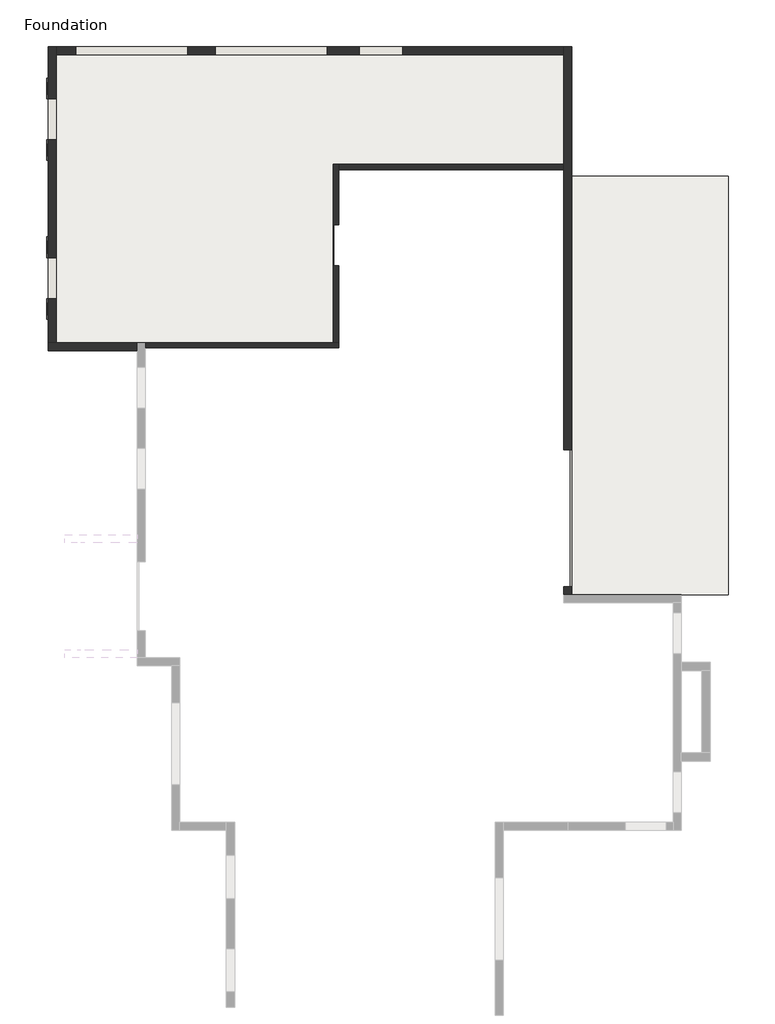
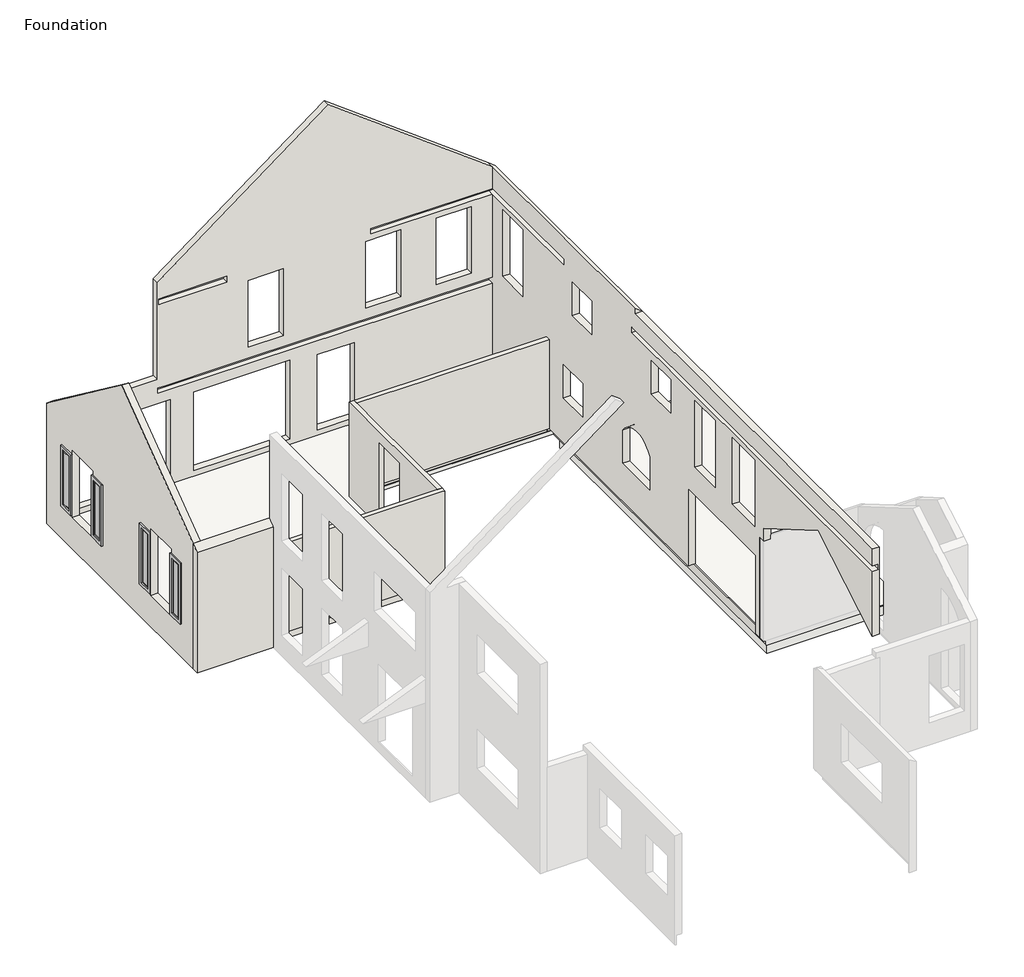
# One storey, part 2 of 2: 7 walls, 4 proxies, 3 slabs.
"""IFC4 building model written with IfcOpenShell, lengths in millimetres."""

from ifc_helpers import new_model, si_unit, frame, origin, place, context, project, spatial, polyline, circle_curve, outline, extrude, faceted_brep, transform, mapped, element, save
from ifc_brep_helpers import plane_surface, revolved_surface, advanced_brep
from components import shutter_4292_shutter_4292_058b0e71

model = new_model("IFC4")

# Units and contexts
model_context = context("Model", 3, world=origin())
ifc_project = project(units=[si_unit("LENGTHUNIT", "METRE", prefix="MILLI")], contexts=[model_context])

# Site, building, storey
site = spatial("IfcSite", under=ifc_project)
building = spatial("IfcBuilding", under=site)
storey = spatial("IfcBuildingStorey", under=building, Name="Foundation", Elevation=-254.0)

# Proxies
placement = place(None, origin())
shutter_4292_shutter_4292_shape = shutter_4292_shutter_4292_058b0e71(model_context)
element("IfcBuildingElementProxy", 1, Name="Shutter_4292 : Shutter_4292", ObjectType="Shutter_4292 : Shutter_4292", at=placement, inside=storey, context=model_context, shape_type="MappedRepresentation", body=[
    mapped(shutter_4292_shutter_4292_shape, transform((-12623.2105992, 4657.5047697, -254.0), x_axis=(0.0, 1.0, 0.0), y_axis=(-1.0, 0.0, 0.0), z_axis=(0.0, 0.0, 1.0))),
])
element("IfcBuildingElementProxy", 2, Name="Shutter_4292 : Shutter_4292", ObjectType="Shutter_4292 : Shutter_4292", at=placement, inside=storey, context=model_context, shape_type="MappedRepresentation", body=[
    mapped(shutter_4292_shutter_4292_shape, transform((-12623.2105992, 6029.1047697, -254.0), x_axis=(0.0, 1.0, 0.0), y_axis=(-1.0, 0.0, 0.0), z_axis=(0.0, 0.0, 1.0))),
])
element("IfcBuildingElementProxy", 3, Name="Shutter_4292 : Shutter_4292", ObjectType="Shutter_4292 : Shutter_4292", at=placement, inside=storey, context=model_context, shape_type="MappedRepresentation", body=[
    mapped(shutter_4292_shutter_4292_shape, transform((-12623.2105992, 8191.2797697, -254.0), x_axis=(0.0, 1.0, 0.0), y_axis=(-1.0, 0.0, 0.0), z_axis=(0.0, 0.0, 1.0))),
])
element("IfcBuildingElementProxy", 4, Name="Shutter_4292 : Shutter_4292", ObjectType="Shutter_4292 : Shutter_4292", at=placement, inside=storey, context=model_context, shape_type="MappedRepresentation", body=[
    mapped(shutter_4292_shutter_4292_shape, transform((-12623.2105992, 9562.8797697, -254.0), x_axis=(0.0, 1.0, 0.0), y_axis=(-1.0, 0.0, 0.0), z_axis=(0.0, 0.0, 1.0))),
])

# Slabs
element("IfcSlab", 5, ObjectType="Concrete Slab - 10\"", at=placement, inside=storey, context=model_context, shape_type="SweptSolid", body=[
    extrude(outline(polyline([(-1074.1480992, -1929.0327303), (-1074.1480992, 7373.7172697), (2402.4769008, 7373.7172697), (2402.4769008, -1929.0327303), (-1074.1480992, -1929.0327303)])), frame((0.0, 0.0, -508.0), z_axis=(0.0, 0.0, 1.0), x_axis=(1.0, 0.0, 0.0)), (0.0, 0.0, 1.0), 254.0),
])
element("IfcSlab", 6, ObjectType="Concrete Slab - 4\"", at=placement, inside=storey, context=model_context, shape_type="Brep", body=[
    faceted_brep([(-1102.7230992, 10234.3922697, -254.0), (-1102.7230992, 7603.9047697, -254.0), (-6376.3980992, 7603.9047697, -254.0), (-6376.3980992, 3681.1922697, -254.0), (-12685.1230992, 3681.1922697, -254.0), (-12685.1230992, 10234.3922697, -254.0), (-12532.7230992, 10234.3922697, -254.0), (-10494.3730992, 10234.3922697, -254.0), (-9760.9480992, 10234.3922697, -254.0), (-1255.1230992, 10234.3922697, -254.0), (-1102.7230992, 10234.3922697, -152.4), (-1255.1230992, 10234.3922697, -152.4), (-10494.3730992, 10234.3922697, -152.4), (-12532.7230992, 10234.3922697, -152.4), (-12685.1230992, 10234.3922697, -152.4), (-12685.1230992, 3681.1922697, -152.4), (-12532.7230992, 3681.1922697, -152.4), (-6376.3980992, 3681.1922697, -152.4), (-6376.3980992, 7603.9047697, -152.4), (-1102.7230992, 7603.9047697, -152.4), (-1102.7230992, 7627.7172697, -152.4)], [[[0, 1, 2, 3, 4, 5, 6, 7, 8, 9]], [[10, 11, 12, 13, 14, 15, 16, 17, 18, 19, 20]], [[1, 0, 10, 20, 19]], [[2, 1, 19, 18]], [[3, 2, 18, 17]], [[4, 3, 17, 16, 15]], [[5, 4, 15, 14]], [[7, 6, 5, 14, 13, 12]], [[0, 9, 8, 7, 12, 11, 10]]]),
])
element("IfcSlab", 7, ObjectType="Patio Floor", at=placement, inside=storey, context=model_context, shape_type="SweptSolid", body=[
    extrude(outline(polyline([(2402.4769008, 7373.7172697), (2402.4769008, -1929.0327303), (-1074.1480992, -1929.0327303), (-1074.1480992, 7373.7172697), (2402.4769008, 7373.7172697)])), frame((0.0, 0.0, -254.0), z_axis=(0.0, 0.0, 1.0), x_axis=(1.0, 0.0, 0.0)), (0.0, 0.0, 1.0), 25.4),
])

# Walls
element("IfcWall", 8, ObjectType="Interior - 4 3/4\" Partition (1-hr)", at=placement, inside=storey, context=model_context, shape_type="Brep", body=[
    faceted_brep([(-6255.7480992, 3560.5422697, 2438.4), (-6316.0730992, 3560.5422697, 2438.4), (-10551.5230992, 3560.5422697, 2438.4), (-10551.5230992, 3560.5422697, 0.0), (-6316.0730992, 3560.5422697, 0.0), (-6255.7480992, 3560.5422697, 0.0), (-10551.5230992, 3681.1922697, 2438.4), (-6376.3980992, 3681.1922697, 2438.4), (-6255.7480992, 3681.1922697, 2438.4), (-6255.7480992, 3681.1922697, 0.0), (-6360.5230992, 3681.1922697, 0.0), (-6360.5230992, 3681.1922697, -254.0), (-6376.3980992, 3681.1922697, -254.0), (-10551.5230992, 3681.1922697, -254.0), (-6360.5230992, 3665.3172697, -254.0), (-10551.5230992, 3665.3172697, -254.0), (-10551.5230992, 3616.1047697, 2438.4), (-10551.5230992, 3665.3172697, 0.0), (-6360.5230992, 3665.3172697, 0.0)], [[[0, 1, 2, 3, 4, 5]], [[6, 7, 8, 9, 10, 11, 12, 13]], [[13, 12, 11, 14, 15]], [[2, 1, 0, 8, 7, 6, 16]], [[2, 16, 6, 13, 15, 17, 3]], [[8, 0, 5, 9]], [[17, 18, 10, 9, 5, 4, 3]], [[14, 18, 17, 15]], [[18, 14, 11, 10]]]),
])
element("IfcWall", 9, ObjectType="Interior - 4 3/4\" Partition (1-hr)", at=placement, inside=storey, context=model_context, shape_type="Brep", body=[
    faceted_brep([(-6255.7480992, 7643.5922697, 2438.4), (-6255.7480992, 7522.9422697, 2438.4), (-6255.7480992, 6608.5422697, 2438.4), (-6255.7480992, 6494.2422697, 2438.4), (-6255.7480992, 5275.0422697, 2438.4), (-6255.7480992, 5160.7422697, 2438.4), (-6255.7480992, 3681.1922697, 2438.4), (-6255.7480992, 3681.1922697, 0.0), (-6255.7480992, 5160.7422697, 0.0), (-6255.7480992, 5275.0422697, 0.0), (-6255.7480992, 5387.7547697, 0.0), (-6255.7480992, 5387.7547697, 2133.6), (-6255.7480992, 6302.1547697, 2133.6), (-6255.7480992, 6302.1547697, 0.0), (-6255.7480992, 6494.2422697, 0.0), (-6255.7480992, 6608.5422697, 0.0), (-6255.7480992, 7522.9422697, 0.0), (-6255.7480992, 7627.7172697, 0.0), (-6255.7480992, 7627.7172697, -254.0), (-6255.7480992, 7643.5922697, -254.0), (-6376.3980992, 7643.5922697, -254.0), (-6376.3980992, 3681.1922697, -254.0), (-6376.3980992, 3681.1922697, 2438.4), (-6376.3980992, 7643.5922697, 2438.4), (-6376.3980992, 5387.7547697, 0.0), (-6376.3980992, 6302.1547697, 0.0), (-6376.3980992, 6302.1547697, 2133.6), (-6376.3980992, 5387.7547697, 2133.6), (-6360.5230992, 7627.7172697, -254.0), (-6360.5230992, 3681.1922697, -254.0), (-6360.5230992, 6302.1547697, 0.0), (-6360.5230992, 7627.7172697, 0.0), (-6360.5230992, 3681.1922697, 0.0), (-6360.5230992, 5387.7547697, 0.0)], [[[0, 1, 2, 3, 4, 5, 6, 7, 8, 9, 10, 11, 12, 13, 14, 15, 16, 17, 18, 19]], [[20, 21, 22, 23], [24, 25, 26, 27]], [[21, 20, 19, 18, 28, 29]], [[6, 5, 4, 3, 2, 1, 0, 23, 22]], [[0, 19, 20, 23]], [[30, 31, 17, 16, 15, 14, 13]], [[32, 33, 10, 9, 8, 7]], [[28, 31, 30, 33, 32, 29]], [[31, 28, 18, 17]], [[25, 24, 33, 30]], [[26, 25, 30, 13, 12]], [[27, 26, 12, 11]], [[24, 27, 11, 10, 33]], [[6, 22, 21, 29, 32, 7]]]),
])
element("IfcWall", 10, ObjectType="Interior - 4 3/4\" Partition (1-hr)", at=placement, inside=storey, context=model_context, shape_type="Brep", body=[
    faceted_brep([(-1255.1230992, 7522.9422697, 2438.4), (-4312.6480992, 7522.9422697, 2438.4), (-4426.9480992, 7522.9422697, 2438.4), (-6255.7480992, 7522.9422697, 2438.4), (-6255.7480992, 7522.9422697, 0.0), (-4426.9480992, 7522.9422697, 0.0), (-4312.6480992, 7522.9422697, 0.0), (-1255.1230992, 7522.9422697, 0.0), (-1255.1230992, 7643.5922697, -254.0), (-6255.7480992, 7643.5922697, -254.0), (-6255.7480992, 7643.5922697, 2438.4), (-1255.1230992, 7643.5922697, 2438.4), (-1255.1230992, 7627.7172697, -254.0), (-6255.7480992, 7627.7172697, -254.0), (-6255.7480992, 7627.7172697, 0.0), (-1255.1230992, 7627.7172697, 0.0), (-1255.1230992, 7627.7172697, -152.4)], [[[0, 1, 2, 3, 4, 5, 6, 7]], [[8, 9, 10, 11]], [[9, 8, 12, 13]], [[3, 2, 1, 0, 11, 10]], [[3, 10, 9, 13, 14, 4]], [[8, 11, 0, 7, 15, 16, 12]], [[14, 15, 7, 6, 5, 4]], [[15, 14, 13, 12, 16]]]),
])
element("IfcWall", 11, ObjectType="Siding For My House", at=placement, inside=storey, context=model_context, shape_type="AdvancedBrep", body=[
    advanced_brep(
    [(-1255.1230992, 10262.9672697, 5622.13125), (-1255.1230992, 10262.9672697, -254.0), (-1255.1230992, 10234.3922697, -254.0), (-1255.1230992, 10234.3922697, -152.4), (-1255.1230992, 10081.9922697, -152.4), (-1255.1230992, 7627.7172697, -152.4), (-1255.1230992, 7627.7172697, 0.0), (-1255.1230992, 7522.9422697, 0.0), (-1255.1230992, 5389.3422697, 0.0), (-1255.1230992, 5275.0422697, 0.0), (-1255.1230992, 1293.5922697, 0.0), (-1255.1230992, 1293.5922697, 2133.6), (-1255.1230992, -1754.4077303, 2133.6), (-1255.1230992, -1754.4077303, 0.0), (-1255.1230992, -1929.0327303, 0.0), (-1255.1230992, -1929.0327303, 2743.2), (-1255.1230992, -2110.0077303, 2743.2), (-1255.1230992, -2110.0077303, 3091.3655532), (-1255.1230992, -4548.4077303, 4513.7655532), (-1255.1230992, -6986.6482031, 3091.4586107), (-1255.1230992, -6986.8077303, 3091.3655532), (-1255.1230992, -6986.8077303, 4876.8), (-1255.1230992, -2833.9077303, 4876.8), (-1255.1230992, -2719.6077303, 4876.8), (-1255.1230992, -2110.0077303, 4876.8), (-1255.1230992, -1995.7077303, 4876.8), (-1255.1230992, 1388.8422697, 4876.8), (-1255.1230992, 1503.1422697, 4876.8), (-1255.1230992, 3817.7172697, 4876.8), (-1255.1230992, 3817.7172697, 5029.2), (-1255.1230992, -6986.8077303, 5029.2), (-1255.1230992, -6986.8077303, 5486.4), (-1255.1230992, 3665.3172697, 5486.4), (-1255.1230992, 3665.3172697, 5622.13125), (-1255.1230992, 3817.7172697, 5622.13125), (-1255.1230992, 3932.0172697, 5622.13125), (-1255.1230992, 6767.2922697, 5622.13125), (-1255.1230992, 6881.5922697, 5622.13125), (-1255.1230992, 10081.9922697, 5622.13125), (-1255.1230992, 3008.0922697, 1041.4), (-1255.1230992, 4227.2922697, 1041.4), (-1255.1230992, 4227.2922697, 1955.8), (-1255.1230992, 3008.0922697, 1955.8), (-1255.1230992, 988.7922697, 2895.6), (-1255.1230992, 988.7922697, 4724.4), (-1255.1230992, 74.3922697, 4724.4), (-1255.1230992, 74.3922697, 2895.6), (-1255.1230992, -681.2577303, 2895.6), (-1255.1230992, -681.2577303, 4724.4), (-1255.1230992, -1697.2577303, 4724.4), (-1255.1230992, -1697.2577303, 2895.6), (-1255.1230992, 6025.9297697, 2133.6), (-1255.1230992, 6025.9297697, 1219.2), (-1255.1230992, 6889.5297697, 1219.2), (-1255.1230992, 6889.5297697, 2133.6), (-1255.1230992, 5630.6422697, 4635.5), (-1255.1230992, 5630.6422697, 3721.1), (-1255.1230992, 6494.2422697, 3721.1), (-1255.1230992, 6494.2422697, 4635.5), (-1255.1230992, 2080.9922697, 4635.5), (-1255.1230992, 2080.9922697, 3721.1), (-1255.1230992, 2944.5922697, 3721.1), (-1255.1230992, 2944.5922697, 4635.5), (-1255.1230992, 8710.3922697, 4724.4), (-1255.1230992, 8710.3922697, 2895.6), (-1255.1230992, 9624.7922697, 2895.6), (-1255.1230992, 9624.7922697, 4724.4), (-1255.1230992, 6881.5922697, 4876.8), (-1255.1230992, 10081.9922697, 4876.8), (-1255.1230992, 10234.3922697, 4876.8), (-1255.1230992, 10234.3922697, 5029.2), (-1255.1230992, 10081.9922697, 5029.2), (-1255.1230992, 6881.5922697, 5029.2), (-1074.1480992, -1929.0327303, -254.0), (-1074.1480992, 10262.9672697, -254.0), (-1074.1480992, 10262.9672697, 5486.4), (-1074.1480992, 3665.3172697, 5486.4), (-1074.1480992, -6986.8077303, 5486.4), (-1074.1480992, -6986.8077303, 3091.3655532), (-1074.1480992, -4548.4077303, 4513.7655532), (-1074.1480992, -2110.0077303, 3091.3655532), (-1074.1480992, -2110.0077303, 2848.76875), (-1074.1480992, -2110.0077303, 2743.2), (-1074.1480992, -1929.0327303, 2743.2), (-1074.1480992, 4227.2922697, 1041.4), (-1074.1480992, 3008.0922697, 1041.4), (-1074.1480992, 3008.0922697, 1955.8), (-1074.1480992, 4227.2922697, 1955.8), (-1074.1480992, -1754.4077303, 0.0), (-1074.1480992, -1754.4077303, 2133.6), (-1074.1480992, 1293.5922697, 2133.6), (-1074.1480992, 1293.5922697, 0.0), (-1074.1480992, 988.7922697, 4724.4), (-1074.1480992, 988.7922697, 2895.6), (-1074.1480992, 74.3922697, 2895.6), (-1074.1480992, 74.3922697, 4724.4), (-1074.1480992, -681.2577303, 4724.4), (-1074.1480992, -681.2577303, 2895.6), (-1074.1480992, -1697.2577303, 2895.6), (-1074.1480992, -1697.2577303, 4724.4), (-1074.1480992, 6025.9297697, 1219.2), (-1074.1480992, 6025.9297697, 2133.6), (-1074.1480992, 6889.5297697, 2133.6), (-1074.1480992, 6889.5297697, 1219.2), (-1074.1480992, 5630.6422697, 3721.1), (-1074.1480992, 5630.6422697, 4635.5), (-1074.1480992, 6494.2422697, 4635.5), (-1074.1480992, 6494.2422697, 3721.1), (-1074.1480992, 2080.9922697, 3721.1), (-1074.1480992, 2080.9922697, 4635.5), (-1074.1480992, 2944.5922697, 4635.5), (-1074.1480992, 2944.5922697, 3721.1), (-1074.1480992, 8710.3922697, 2895.6), (-1074.1480992, 8710.3922697, 4724.4), (-1074.1480992, 9624.7922697, 4724.4), (-1074.1480992, 9624.7922697, 2895.6), (-1102.7230992, -1754.4077303, 0.0), (-1102.7230992, -1929.0327303, 0.0), (-1102.7230992, 7627.7172697, 0.0), (-1102.7230992, 1293.5922697, 0.0), (-1102.7230992, 7627.7172697, -152.4), (-1102.7230992, 10234.3922697, -152.4), (-1102.7230992, 10234.3922697, -254.0), (-1102.7230992, 7627.7172697, -254.0), (-1102.7230992, 7603.9047697, -254.0), (-1102.7230992, -1929.0327303, -254.0), (-1102.7230992, -6986.8077303, 5029.2), (-1102.7230992, -6986.8077303, 4876.8), (-1102.7230992, 3817.7172697, 4876.8), (-1102.7230992, 6881.5922697, 4876.8), (-1102.7230992, 10234.3922697, 4876.8), (-1102.7230992, 10234.3922697, 5029.2), (-1102.7230992, 6881.5922697, 5029.2), (-1102.7230992, 3817.7172697, 5029.2)],
    [
        (0, 1),
        (1, 2),
        (2, 3),
        (3, 4),
        (4, 5),
        (5, 6),
        (6, 7),
        (7, 8),
        (8, 9),
        (9, 10),
        (10, 11),
        (11, 12),
        (12, 13),
        (13, 14),
        (14, 15),
        (15, 16),
        (16, 17),
        (17, 18),
        (18, 19),
        (19, 20),
        (20, 21),
        (21, 22),
        (22, 23),
        (23, 24),
        (24, 25),
        (25, 26),
        (26, 27),
        (27, 28),
        (28, 29),
        (29, 30),
        (30, 31),
        (31, 32),
        (32, 33),
        (33, 34),
        (34, 35),
        (35, 36),
        (36, 37),
        (37, 38),
        (38, 0),
        (39, 40),
        (40, 41),
        (41, 42, circle_curve(frame((-1255.1230992, 3617.6922697, 1543.05), z_axis=(1.0, 0.0, 0.0), x_axis=(0.0, -1.0, 0.0)), 736.1893252)),
        (42, 39),
        (43, 44),
        (44, 45),
        (45, 46),
        (46, 43),
        (47, 48),
        (48, 49),
        (49, 50),
        (50, 47),
        (51, 52),
        (52, 53),
        (53, 54),
        (54, 51),
        (55, 56),
        (56, 57),
        (57, 58),
        (58, 55),
        (59, 60),
        (60, 61),
        (61, 62),
        (62, 59),
        (63, 64),
        (64, 65),
        (65, 66),
        (66, 63),
        (67, 68),
        (68, 69),
        (69, 70),
        (70, 71),
        (71, 72),
        (72, 67),
        (73, 74),
        (74, 75),
        (75, 76),
        (76, 77),
        (77, 78),
        (78, 79),
        (79, 80),
        (80, 81),
        (81, 82),
        (82, 83),
        (83, 73),
        (84, 85),
        (85, 86),
        (86, 87, circle_curve(frame((-1074.1480992, 3617.6922697, 1543.05), z_axis=(-1.0, 0.0, 0.0), x_axis=(0.0, -1.0, 0.0)), 736.1893252)),
        (87, 84),
        (88, 89),
        (89, 90),
        (90, 91),
        (91, 88),
        (92, 93),
        (93, 94),
        (94, 95),
        (95, 92),
        (96, 97),
        (97, 98),
        (98, 99),
        (99, 96),
        (100, 101),
        (101, 102),
        (102, 103),
        (103, 100),
        (104, 105),
        (105, 106),
        (106, 107),
        (107, 104),
        (108, 109),
        (109, 110),
        (110, 111),
        (111, 108),
        (112, 113),
        (113, 114),
        (114, 115),
        (115, 112),
        (0, 75),
        (74, 1),
        (13, 116),
        (116, 117),
        (117, 14),
        (6, 118),
        (118, 119),
        (119, 10),
        (5, 120),
        (120, 118),
        (121, 122),
        (122, 123),
        (123, 124),
        (124, 125),
        (125, 117),
        (116, 119),
        (120, 121),
        (3, 121),
        (2, 122),
        (84, 40),
        (39, 85),
        (42, 86),
        (41, 87),
        (88, 116),
        (12, 89),
        (11, 90),
        (119, 91),
        (92, 44),
        (43, 93),
        (46, 94),
        (45, 95),
        (97, 47),
        (50, 98),
        (96, 48),
        (99, 49),
        (51, 101),
        (100, 52),
        (103, 53),
        (102, 54),
        (73, 125),
        (77, 31),
        (30, 126),
        (126, 127),
        (127, 21),
        (20, 78),
        (127, 128),
        (128, 28),
        (129, 130),
        (130, 69),
        (67, 129),
        (131, 132),
        (132, 72),
        (70, 131),
        (29, 133),
        (133, 126),
        (133, 128),
        (130, 131),
        (55, 105),
        (104, 56),
        (107, 57),
        (106, 58),
        (59, 109),
        (108, 60),
        (111, 61),
        (110, 62),
        (63, 113),
        (112, 64),
        (115, 65),
        (114, 66),
        (17, 80),
        (79, 18),
        (15, 83),
        (82, 16),
        (76, 32),
        (76, 33),
        (129, 132),
    ],
    [
        plane_surface(frame((-1255.1230992, 7814.0736199, -254.0), z_axis=(-1.0, 0.0, 0.0), x_axis=(0.0, -1.0, 0.0))),
        plane_surface(frame((-1074.1480992, 7814.0736199, -254.0), z_axis=(1.0, 0.0, 0.0), x_axis=(0.0, 1.0, 0.0))),
        plane_surface(frame((-9941.9230992, 10262.9672697, 2827.3375), z_axis=(0.0, 1.0, 0.0), x_axis=(1.0, 0.0, 0.0))),
        plane_surface(frame((-10703.9230992, 3665.3172697, 0.0), z_axis=(0.0, 0.0, -1.0), x_axis=(-1.0, 0.0, 0.0))),
        plane_surface(frame((-6360.5230992, 7627.7172697, -254.0), z_axis=(0.0, -1.0, 0.0), x_axis=(0.0, 0.0, 1.0))),
        plane_surface(frame((-1102.7230992, 7627.7172697, -254.0), z_axis=(-1.0, 0.0, 0.0), x_axis=(0.0, 0.0, 1.0))),
        plane_surface(frame((-1102.7230992, 10194.7047697, -152.4), z_axis=(0.0, 0.0, -1.0), x_axis=(0.0, 1.0, 0.0))),
        plane_surface(frame((-10494.3730992, 10234.3922697, -254.0), z_axis=(0.0, -1.0, 0.0), x_axis=(0.0, 0.0, 1.0))),
        plane_surface(frame((-1074.1480992, 4227.2922697, 1041.4), z_axis=(0.0, 0.0, 1.0), x_axis=(-1.0, 0.0, 0.0))),
        plane_surface(frame((-1074.1480992, 3008.0922697, 1041.4), z_axis=(0.0, 1.0, 0.0), x_axis=(-1.0, 0.0, 0.0))),
        revolved_surface(polyline([(-1255.1230992, 2881.5029445, 1543.05), (-1074.1480992, 2881.5029445, 1543.05)]), (-1255.1230992, 3617.6922697, 1543.05), (-1.0, 0.0, 0.0)),
        plane_surface(frame((-1074.1480992, 4227.2922697, 1955.8), z_axis=(0.0, -1.0, 0.0), x_axis=(-1.0, 0.0, 0.0))),
        plane_surface(frame((-1074.1480992, -1754.4077303, 0.0), z_axis=(0.0, 1.0, 0.0), x_axis=(-1.0, 0.0, 0.0))),
        plane_surface(frame((-1074.1480992, -1754.4077303, 2133.6), z_axis=(0.0, 0.0, -1.0), x_axis=(-1.0, 0.0, 0.0))),
        plane_surface(frame((-1074.1480992, 1293.5922697, 2133.6), z_axis=(0.0, -1.0, 0.0), x_axis=(-1.0, 0.0, 0.0))),
        plane_surface(frame((-1074.1480992, 1293.5922697, 0.0), z_axis=(0.0, 0.0, 1.0), x_axis=(-1.0, 0.0, 0.0))),
        plane_surface(frame((-1074.1480992, 988.7922697, 4724.4), z_axis=(0.0, -1.0, 0.0), x_axis=(-1.0, 0.0, 0.0))),
        plane_surface(frame((-1074.1480992, 988.7922697, 2895.6), z_axis=(0.0, 0.0, 1.0), x_axis=(-1.0, 0.0, 0.0))),
        plane_surface(frame((-1074.1480992, 74.3922697, 2895.6), z_axis=(0.0, 1.0, 0.0), x_axis=(-1.0, 0.0, 0.0))),
        plane_surface(frame((-1074.1480992, 74.3922697, 4724.4), z_axis=(0.0, 0.0, -1.0), x_axis=(-1.0, 0.0, 0.0))),
        plane_surface(frame((-1255.1230992, -1595.6577303, 2895.6), z_axis=(0.0, 0.0, 1.0), x_axis=(1.0, 0.0, 0.0))),
        plane_surface(frame((-1255.1230992, -681.2577303, 2895.6), z_axis=(0.0, -1.0, 0.0), x_axis=(1.0, 0.0, 0.0))),
        plane_surface(frame((-1255.1230992, -681.2577303, 4724.4), z_axis=(0.0, 0.0, -1.0), x_axis=(1.0, 0.0, 0.0))),
        plane_surface(frame((-1255.1230992, 6025.9297697, 2133.6), z_axis=(0.0, 1.0, 0.0), x_axis=(1.0, 0.0, 0.0))),
        plane_surface(frame((-1255.1230992, 6025.9297697, 1219.2), z_axis=(0.0, 0.0, 1.0), x_axis=(1.0, 0.0, 0.0))),
        plane_surface(frame((-1255.1230992, 6889.5297697, 1219.2), z_axis=(0.0, -1.0, 0.0), x_axis=(1.0, 0.0, 0.0))),
        plane_surface(frame((-1255.1230992, 6889.5297697, 2133.6), z_axis=(0.0, 0.0, -1.0), x_axis=(1.0, 0.0, 0.0))),
        plane_surface(frame((-1255.1230992, 10172.4797697, -254.0), z_axis=(0.0, 0.0, -1.0), x_axis=(1.0, 0.0, 0.0))),
        plane_surface(frame((-1255.1230992, -6986.8077303, 3091.3655532), z_axis=(0.0, -1.0, 0.0), x_axis=(1.0, 0.0, 0.0))),
        plane_surface(frame((-8144.8730992, 3598.6422697, 4876.8), z_axis=(0.0, 0.0, 1.0), x_axis=(0.0, -1.0, 0.0))),
        plane_surface(frame((-8144.8730992, 3598.6422697, 5029.2), z_axis=(0.0, 0.0, -1.0), x_axis=(0.0, 1.0, 0.0))),
        plane_surface(frame((-1102.7230992, 3817.7172697, 4876.8), z_axis=(-1.0, 0.0, 0.0), x_axis=(0.0, 0.0, 1.0))),
        plane_surface(frame((-4417.4230992, 10234.3922697, 4876.8), z_axis=(0.0, -1.0, 0.0), x_axis=(0.0, 0.0, 1.0))),
        plane_surface(frame((-1255.1230992, 5630.6422697, 4635.5), z_axis=(0.0, 1.0, 0.0), x_axis=(1.0, 0.0, 0.0))),
        plane_surface(frame((-1255.1230992, 5630.6422697, 3721.1), z_axis=(0.0, 0.0, 1.0), x_axis=(1.0, 0.0, 0.0))),
        plane_surface(frame((-1255.1230992, 6494.2422697, 3721.1), z_axis=(0.0, -1.0, 0.0), x_axis=(1.0, 0.0, 0.0))),
        plane_surface(frame((-1255.1230992, 6494.2422697, 4635.5), z_axis=(0.0, 0.0, -1.0), x_axis=(1.0, 0.0, 0.0))),
        plane_surface(frame((-1255.1230992, 2080.9922697, 4635.5), z_axis=(0.0, 1.0, 0.0), x_axis=(1.0, 0.0, 0.0))),
        plane_surface(frame((-1255.1230992, 2080.9922697, 3721.1), z_axis=(0.0, 0.0, 1.0), x_axis=(1.0, 0.0, 0.0))),
        plane_surface(frame((-1255.1230992, 2944.5922697, 3721.1), z_axis=(0.0, -1.0, 0.0), x_axis=(1.0, 0.0, 0.0))),
        plane_surface(frame((-1255.1230992, 2944.5922697, 4635.5), z_axis=(0.0, 0.0, -1.0), x_axis=(1.0, 0.0, 0.0))),
        plane_surface(frame((-1255.1230992, 8710.3922697, 4724.4), z_axis=(0.0, 1.0, 0.0), x_axis=(1.0, 0.0, 0.0))),
        plane_surface(frame((-1255.1230992, 8710.3922697, 2895.6), z_axis=(0.0, 0.0, 1.0), x_axis=(1.0, 0.0, 0.0))),
        plane_surface(frame((-1255.1230992, 9624.7922697, 2895.6), z_axis=(0.0, -1.0, 0.0), x_axis=(1.0, 0.0, 0.0))),
        plane_surface(frame((-1255.1230992, 9624.7922697, 4724.4), z_axis=(0.0, 0.0, -1.0), x_axis=(1.0, 0.0, 0.0))),
        plane_surface(frame((-1255.1230992, -2019.5202303, 3038.5811782), z_axis=(0.0, -0.5038710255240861, -0.8637789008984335), x_axis=(1.0, 0.0, 0.0))),
        plane_surface(frame((-1255.1230992, -4548.4077303, 4513.7655532), z_axis=(0.0, 0.5038710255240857, -0.8637789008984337), x_axis=(1.0, 0.0, 0.0))),
        plane_surface(frame((-1255.1230992, -2019.5202303, 2743.2), z_axis=(0.0, 0.0, -1.0), x_axis=(1.0, 0.0, 0.0))),
        plane_surface(frame((6545.8519008, -1929.0327303, -254.0), z_axis=(0.0, -1.0, 0.0), x_axis=(-1.0, 0.0, 0.0))),
        plane_surface(frame((-3579.2230992, -2110.0077303, 2590.8), z_axis=(0.0, -1.0, 0.0), x_axis=(1.0, 0.0, 0.0))),
        plane_surface(frame((-1255.1230992, -6986.8077303, 5486.4), z_axis=(0.0, 0.0, 1.0), x_axis=(1.0, 0.0, 0.0))),
        plane_surface(frame((-10246.7230992, 3665.3172697, 5486.4), z_axis=(0.0, -1.0, 0.0), x_axis=(1.0, 0.0, 0.0))),
        plane_surface(frame((-779.9314325, 3665.3172697, 5265.7375), z_axis=(0.600000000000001, 0.0, 0.7999999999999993), x_axis=(0.0, 1.0, 0.0))),
        plane_surface(frame((-1102.7230992, 10234.3922697, 4876.8), z_axis=(-1.0, 0.0, 0.0), x_axis=(0.0, 0.0, 1.0))),
        plane_surface(frame((-1102.7230992, 6881.5922697, 4876.8), z_axis=(0.0, 1.0, 0.0), x_axis=(0.0, 0.0, 1.0))),
        plane_surface(frame((-4407.8980992, 3817.7172697, 4876.8), z_axis=(0.0, -1.0, 0.0), x_axis=(0.0, 0.0, 1.0))),
        plane_surface(frame((268.8769008, -1697.2577303, 4724.4), z_axis=(0.0, 1.0, 0.0), x_axis=(-1.0, 0.0, 0.0))),
    ],
    [
        (0, [[1, 2, 3, 4, 5, 6, 7, 8, 9, 10, 11, 12, 13, 14, 15, 16, 17, 18, 19, 20, 21, 22, 23, 24, 25, 26, 27, 28, 29, 30, 31, 32, 33, 34, 35, 36, 37, 38, 39], [40, 41, 42, 43], [44, 45, 46, 47], [48, 49, 50, 51], [52, 53, 54, 55], [56, 57, 58, 59], [60, 61, 62, 63], [64, 65, 66, 67], [68, 69, 70, 71, 72, 73]]),
        (1, [[74, 75, 76, 77, 78, 79, 80, 81, 82, 83, 84], [85, 86, 87, 88], [89, 90, 91, 92], [93, 94, 95, 96], [97, 98, 99, 100], [101, 102, 103, 104], [105, 106, 107, 108], [109, 110, 111, 112], [113, 114, 115, 116]]),
        (2, [[-1, 117, -75, 118]]),
        (3, [[-14, 119, 120, 121]]),
        (3, [[122, 123, 124, -10, -9, -8, -7]]),
        (4, [[-122, -6, 125, 126]]),
        (5, [[127, 128, 129, 130, 131, -120, 132, -123, -126, 133]]),
        (6, [[134, -133, -125, -5, -4]]),
        (7, [[-127, -134, -3, 135]]),
        (8, [[-85, 136, -40, 137]]),
        (9, [[-86, -137, -43, 138]]),
        (10, [[-87, -138, -42, 139]]),
        (11, [[-88, -139, -41, -136]]),
        (12, [[-89, 140, -119, -13, 141]]),
        (13, [[-90, -141, -12, 142]]),
        (14, [[-91, -142, -11, -124, 143]]),
        (15, [[-92, -143, -132, -140]]),
        (16, [[-93, 144, -44, 145]]),
        (17, [[-94, -145, -47, 146]]),
        (18, [[-95, -146, -46, 147]]),
        (19, [[-96, -147, -45, -144]]),
        (20, [[148, -51, 149, -98]]),
        (21, [[-48, -148, -97, 150]]),
        (22, [[-150, -100, 151, -49]]),
        (23, [[-52, 152, -101, 153]]),
        (24, [[-53, -153, -104, 154]]),
        (25, [[-54, -154, -103, 155]]),
        (26, [[-55, -155, -102, -152]]),
        (27, [[-74, 156, -130, -129, -128, -135, -2, -118]]),
        (28, [[-78, 157, -31, 158, 159, 160, -21, 161]]),
        (29, [[162, 163, -28, -27, -26, -25, -24, -23, -22, -160]]),
        (29, [[164, 165, -69, -68, 166]]),
        (30, [[167, 168, -72, -71, 169]]),
        (30, [[170, 171, -158, -30]]),
        (31, [[172, -162, -159, -171]]),
        (32, [[173, -169, -70, -165]]),
        (33, [[-56, 174, -105, 175]]),
        (34, [[-57, -175, -108, 176]]),
        (35, [[-58, -176, -107, 177]]),
        (36, [[-59, -177, -106, -174]]),
        (37, [[-60, 178, -109, 179]]),
        (38, [[-61, -179, -112, 180]]),
        (39, [[-62, -180, -111, 181]]),
        (40, [[-63, -181, -110, -178]]),
        (41, [[-64, 182, -113, 183]]),
        (42, [[-65, -183, -116, 184]]),
        (43, [[-66, -184, -115, 185]]),
        (44, [[-67, -185, -114, -182]]),
        (45, [[-18, 186, -80, 187]]),
        (46, [[-20, -19, -187, -79, -161]]),
        (47, [[-16, 188, -83, 189]]),
        (48, [[-84, -188, -15, -121, -131, -156]]),
        (49, [[-17, -189, -82, -81, -186]]),
        (50, [[-157, -77, 190, -32]]),
        (51, [[-190, 191, -33]]),
        (52, [[-39, -38, -37, -36, -35, -34, -191, -76, -117]]),
        (53, [[-164, 192, -167, -173]]),
        (54, [[-192, -166, -73, -168]]),
        (55, [[-172, -170, -29, -163]]),
        (56, [[-151, -99, -149, -50]]),
    ],
),
])
element("IfcWall", 12, ObjectType="Siding For My House", at=placement, inside=storey, context=model_context, shape_type="Brep", body=[
    faceted_brep([(-10732.4980992, 3681.1922697, 3183.73125), (-10732.4980992, 3681.1922697, -254.0), (-12532.7230992, 3681.1922697, -254.0), (-12713.6980992, 3681.1922697, -254.0), (-12713.6980992, 3681.1922697, 3183.73125), (-12532.7230992, 3681.1922697, 3183.73125), (-10732.4980992, 3500.2172697, -254.0), (-10732.4980992, 3500.2172697, 3048.0), (-12713.6980992, 3500.2172697, 3048.0), (-12713.6980992, 3500.2172697, -254.0), (-10732.4980992, 3666.375603, 3172.61875)], [[[0, 1, 2, 3, 4, 5]], [[6, 7, 8, 9]], [[3, 2, 1, 6, 9]], [[4, 3, 9, 8]], [[0, 10, 7, 6, 1]], [[0, 5, 4, 8, 7, 10]]]),
])
element("IfcWall", 13, ObjectType="Siding For My House", at=placement, inside=storey, context=model_context, shape_type="Brep", body=[
    faceted_brep([(-12532.7230992, 10262.9672697, 3048.0), (-12532.7230992, 6881.5922697, 5584.03125), (-12532.7230992, 3681.1922697, 3183.73125), (-12532.7230992, 3681.1922697, -152.4), (-12532.7230992, 10234.3922697, -152.4), (-12532.7230992, 10234.3922697, -254.0), (-12532.7230992, 10262.9672697, -254.0), (-12532.7230992, 10262.9672697, 2827.3375), (-12532.7230992, 9105.6797697, 2438.4), (-12532.7230992, 9105.6797697, 609.6), (-12532.7230992, 8191.2797697, 609.6), (-12532.7230992, 8191.2797697, 2438.4), (-12532.7230992, 5571.9047697, 2438.4), (-12532.7230992, 5571.9047697, 609.6), (-12532.7230992, 4657.5047697, 609.6), (-12532.7230992, 4657.5047697, 2438.4), (-12713.6980992, 10262.9672697, -254.0), (-12713.6980992, 3681.1922697, -254.0), (-12713.6980992, 3681.1922697, 3183.73125), (-12713.6980992, 6881.5922697, 5584.03125), (-12713.6980992, 10262.9672697, 3048.0), (-12713.6980992, 9105.6797697, 609.6), (-12713.6980992, 9105.6797697, 2438.4), (-12713.6980992, 8191.2797697, 2438.4), (-12713.6980992, 8191.2797697, 609.6), (-12713.6980992, 5571.9047697, 609.6), (-12713.6980992, 5571.9047697, 2438.4), (-12713.6980992, 4657.5047697, 2438.4), (-12713.6980992, 4657.5047697, 609.6), (-12685.1230992, 10234.3922697, -254.0), (-12685.1230992, 3681.1922697, -254.0), (-12685.1230992, 3681.1922697, -152.4), (-12685.1230992, 10234.3922697, -152.4)], [[[0, 1, 2, 3, 4, 5, 6, 7], [8, 9, 10, 11], [12, 13, 14, 15]], [[16, 17, 18, 19, 20], [21, 22, 23, 24], [25, 26, 27, 28]], [[17, 16, 6, 5, 29, 30]], [[2, 18, 17, 30, 31, 3]], [[31, 32, 4, 3]], [[32, 31, 30, 29]], [[18, 2, 1, 19]], [[1, 0, 20, 19]], [[9, 8, 22, 21]], [[10, 9, 21, 24]], [[11, 10, 24, 23]], [[8, 11, 23, 22]], [[13, 12, 26, 25]], [[14, 13, 25, 28]], [[15, 14, 28, 27]], [[12, 15, 27, 26]], [[0, 7, 6, 16, 20]], [[32, 29, 5, 4]]]),
])
element("IfcWall", 14, ObjectType="Siding For My House", at=placement, inside=storey, context=model_context, shape_type="Brep", body=[
    faceted_brep([(-12532.7230992, 10081.9922697, -152.4), (-1255.1230992, 10081.9922697, -152.4), (-1255.1230992, 10081.9922697, 2438.4), (-9941.9290677, 10081.9922697, 2438.4), (-9941.9290677, 10081.9922697, 2590.8), (-9760.9480992, 10081.9922697, 2590.8), (-8259.1730992, 10081.9922697, 2590.8), (-8144.8730992, 10081.9922697, 2590.8), (-1255.1230992, 10081.9922697, 2590.8), (-1255.1230992, 10081.9922697, 4876.8), (-4417.4230992, 10081.9922697, 4876.8), (-4417.4230992, 10081.9922697, 5029.2), (-1255.1230992, 10081.9922697, 5029.2), (-1255.1230992, 10081.9922697, 5622.13125), (-5508.0355992, 10081.9922697, 8811.815625), (-9941.9230992, 10081.9922697, 5486.4), (-9941.9230992, 10081.9922697, 2827.3375), (-12532.7230992, 10081.9922697, 2827.3375), (-4836.5230992, 10081.9922697, 2057.4), (-4836.5230992, 10081.9922697, 0.0), (-5801.7230992, 10081.9922697, 0.0), (-5801.7230992, 10081.9922697, 2057.4), (-6512.9230992, 10081.9922697, 2159.0), (-6512.9230992, 10081.9922697, 0.0), (-9002.1230992, 10081.9922697, 0.0), (-9002.1230992, 10081.9922697, 2159.0), (-8144.8730992, 10081.9922697, 4876.8), (-8259.1730992, 10081.9922697, 4876.8), (-9760.9480992, 10081.9922697, 4876.8), (-9913.3480992, 10081.9922697, 4876.8), (-9913.3480992, 10081.9922697, 5029.2), (-9760.9480992, 10081.9922697, 5029.2), (-8144.8730992, 10081.9922697, 5029.2), (-12100.9230992, 10081.9922697, 2159.0), (-9611.7230992, 10081.9922697, 2159.0), (-9611.7230992, 10081.9922697, 0.0), (-12100.9230992, 10081.9922697, 0.0), (-6678.0230992, 10081.9922697, 4724.4), (-6678.0230992, 10081.9922697, 2895.6), (-7592.4230992, 10081.9922697, 2895.6), (-7592.4230992, 10081.9922697, 4724.4), (-3630.0230992, 10081.9922697, 4724.4), (-3630.0230992, 10081.9922697, 2895.6), (-4544.4230992, 10081.9922697, 2895.6), (-4544.4230992, 10081.9922697, 4724.4), (-1801.2230992, 10081.9922697, 2895.6), (-2715.6230992, 10081.9922697, 2895.6), (-2715.6230992, 10081.9922697, 4724.4), (-1801.2230992, 10081.9922697, 4724.4), (-1255.1230992, 10262.9672697, -254.0), (-9760.9480992, 10262.9672697, -254.0), (-12532.7230992, 10262.9672697, -254.0), (-12532.7230992, 10262.9672697, 2827.3375), (-9941.9230992, 10262.9672697, 2827.3375), (-9941.9230992, 10262.9672697, 5486.4), (-5508.0355992, 10262.9672697, 8811.815625), (-1255.1230992, 10262.9672697, 5622.13125), (-4836.5230992, 10262.9672697, 0.0), (-4836.5230992, 10262.9672697, 2057.4), (-5801.7230992, 10262.9672697, 2057.4), (-5801.7230992, 10262.9672697, 0.0), (-6512.9230992, 10262.9672697, 0.0), (-6512.9230992, 10262.9672697, 2159.0), (-9002.1230992, 10262.9672697, 2159.0), (-9002.1230992, 10262.9672697, 0.0), (-9611.7230992, 10262.9672697, 2159.0), (-12100.9230992, 10262.9672697, 2159.0), (-12100.9230992, 10262.9672697, 0.0), (-9611.7230992, 10262.9672697, 0.0), (-6678.0230992, 10262.9672697, 2895.6), (-6678.0230992, 10262.9672697, 4724.4), (-7592.4230992, 10262.9672697, 4724.4), (-7592.4230992, 10262.9672697, 2895.6), (-3630.0230992, 10262.9672697, 2895.6), (-3630.0230992, 10262.9672697, 4724.4), (-4544.4230992, 10262.9672697, 4724.4), (-4544.4230992, 10262.9672697, 2895.6), (-2715.6230992, 10262.9672697, 2895.6), (-1801.2230992, 10262.9672697, 2895.6), (-1801.2230992, 10262.9672697, 4724.4), (-2715.6230992, 10262.9672697, 4724.4), (-1255.1230992, 10234.3922697, 5029.2), (-1255.1230992, 10234.3922697, 4876.8), (-1255.1230992, 10234.3922697, 2590.8), (-1255.1230992, 10234.3922697, 2438.4), (-1255.1230992, 10234.3922697, -152.4), (-1255.1230992, 10234.3922697, -254.0), (-10494.3730992, 10234.3922697, -152.4), (-12532.7230992, 10234.3922697, -152.4), (-10494.3730992, 10234.3922697, -254.0), (-9760.9480992, 10234.3922697, -254.0), (-9941.9290677, 10234.3922697, 2438.4), (-9941.9290677, 10234.3922697, 2590.8), (-8144.8730992, 10234.3922697, 4876.8), (-9913.3480992, 10234.3922697, 4876.8), (-4417.4230992, 10234.3922697, 4876.8), (-9913.3480992, 10234.3922697, 5029.2), (-8144.8730992, 10234.3922697, 5029.2), (-4417.4230992, 10234.3922697, 5029.2), (-12532.7230992, 10234.3922697, -254.0)], [[[0, 1, 2, 3, 4, 5, 6, 7, 8, 9, 10, 11, 12, 13, 14, 15, 16, 17], [18, 19, 20, 21], [22, 23, 24, 25], [26, 27, 28, 29, 30, 31, 32], [33, 34, 35, 36], [37, 38, 39, 40], [41, 42, 43, 44], [45, 46, 47, 48]], [[49, 50, 51, 52, 53, 54, 55, 56], [57, 58, 59, 60], [61, 62, 63, 64], [65, 66, 67, 68], [69, 70, 71, 72], [73, 74, 75, 76], [77, 78, 79, 80]], [[49, 56, 13, 12, 81, 82, 9, 8, 83, 84, 2, 1, 85, 86]], [[87, 85, 1, 0, 88]], [[87, 89, 90, 86, 85]], [[58, 57, 19, 18]], [[59, 58, 18, 21]], [[60, 59, 21, 20]], [[57, 60, 20, 19]], [[84, 91, 3, 2]], [[92, 83, 8, 7, 6, 5, 4]], [[92, 91, 84, 83]], [[62, 61, 23, 22]], [[63, 62, 22, 25]], [[64, 63, 25, 24]], [[61, 64, 24, 23]], [[93, 94, 29, 28, 27, 26]], [[82, 95, 10, 9]], [[96, 97, 32, 31, 30]], [[11, 98, 81, 12]], [[94, 93, 97, 96]], [[91, 92, 4, 3]], [[94, 96, 30, 29]], [[50, 49, 86, 90]], [[17, 16, 53, 52]], [[52, 51, 99, 88, 0, 17]], [[51, 50, 90, 89, 99]], [[89, 87, 88, 99]], [[16, 15, 54, 53]], [[97, 93, 26, 32]], [[95, 98, 11, 10]], [[98, 95, 82, 81]], [[54, 15, 14, 55]], [[13, 56, 55, 14]], [[34, 65, 68, 35]], [[65, 34, 33, 66]], [[66, 33, 36, 67]], [[35, 68, 67, 36]], [[38, 37, 70, 69]], [[39, 38, 69, 72]], [[40, 39, 72, 71]], [[37, 40, 71, 70]], [[42, 41, 74, 73]], [[43, 42, 73, 76]], [[44, 43, 76, 75]], [[41, 44, 75, 74]], [[77, 46, 45, 78]], [[80, 47, 46, 77]], [[47, 80, 79, 48]], [[78, 45, 48, 79]]]),
])

save(model, "model.ifc")
